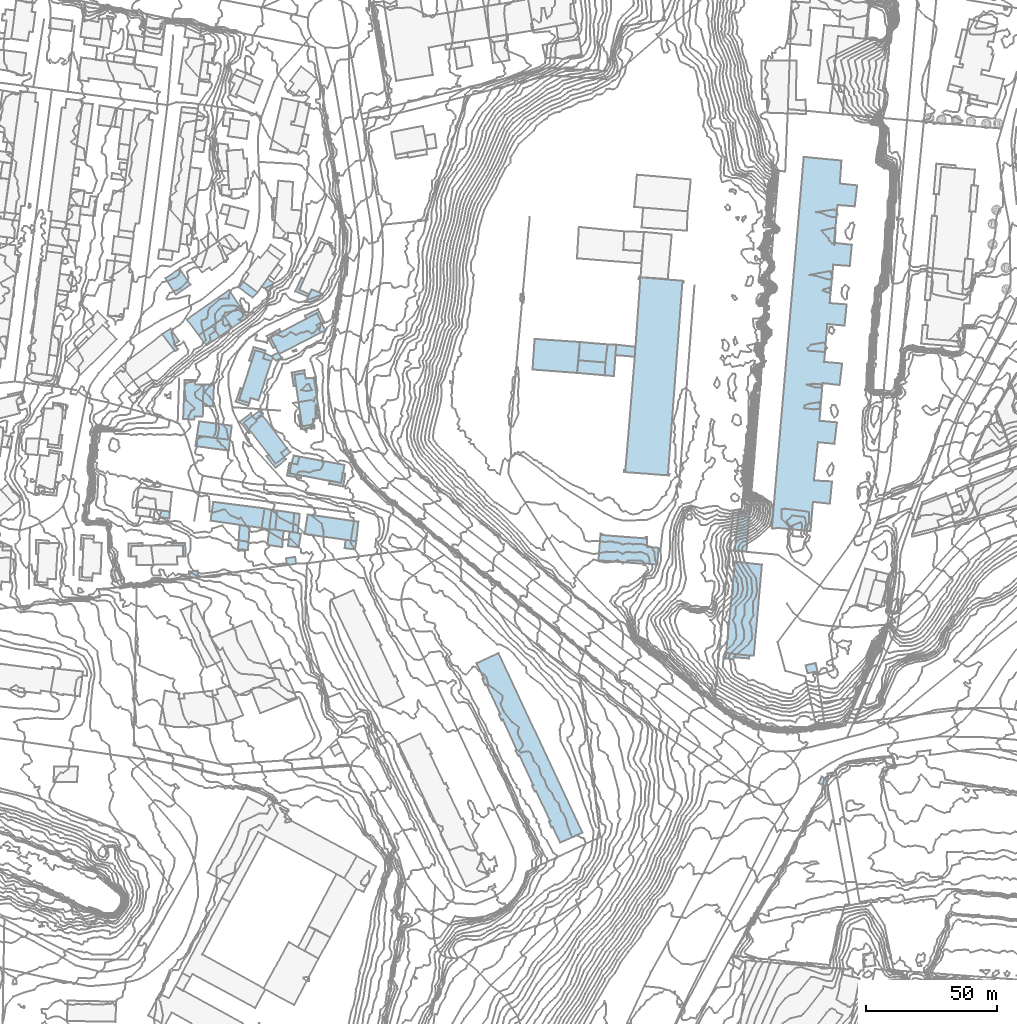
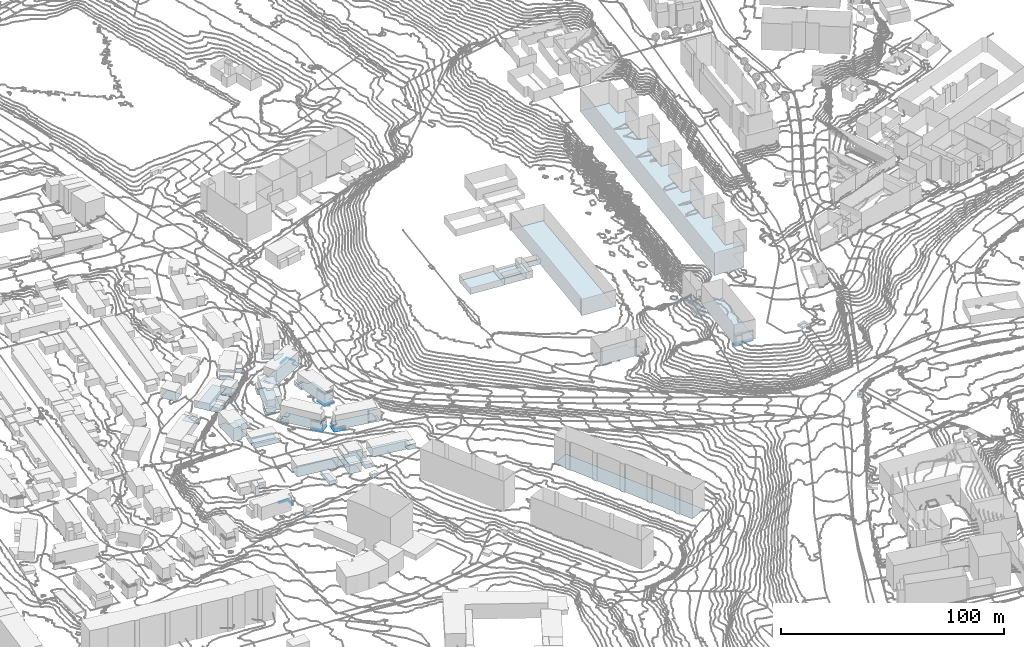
# Not in any storey, part 12 of 419: 63 footings.
"""IFC2X3 model written with IfcOpenShell, lengths in metres."""

from ifc_helpers import new_model, si_unit, frame, origin_with_axes, place, context, subcontext, project, faceted_brep, element, save


model = new_model("IFC2X3")

# Units and contexts
model_context = context("Model", 3, precision=1e-05, world=origin_with_axes())
body_context = subcontext(model_context, "Body", "Model", "MODEL_VIEW")
ifc_project = project(units=[si_unit("AREAUNIT", "SQUARE_METRE"), si_unit("LENGTHUNIT", "METRE")], contexts=[model_context])

# Footings
footing_1_placement = place(None, frame((585.6920204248, 669.3976909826, 49.8970001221), z_axis=(0.0, 0.0, 1.0), x_axis=(1.0, 0.0, 0.0)))
element("IfcFooting", 1, at=footing_1_placement, Name="Sol 0", PredefinedType="STRIP_FOOTING", context=body_context, shape_type="Brep", body=[
    faceted_brep([(0.6, 4.0, 0.0), (13.2000000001, 2.4000000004, 0.0), (12.8, -1.7000000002, 0.0), (0.0, 0.0, 0.0)], [[[0, 1, 2]], [[2, 3, 0]]]),
])
footing_2_placement = place(None, frame((591.4920204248, 640.8976909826, 49.4289993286), z_axis=(0.0, 0.0, 1.0), x_axis=(1.0, 0.0, 0.0)))
element("IfcFooting", 2, at=footing_2_placement, Name="Sol 0", PredefinedType="STRIP_FOOTING", context=body_context, shape_type="Brep", body=[
    faceted_brep([(1.0, 7.2000000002, 0.0), (20.6, 4.7000000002, 0.0), (19.5, -2.7999999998, 0.0), (0.0, 0.0, 0.0)], [[[0, 1, 2]], [[2, 3, 0]]]),
])
footing_3_placement = place(None, frame((613.8920204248, 637.4976909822, 50.0967005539), z_axis=(0.0, 0.0, 1.0), x_axis=(1.0, 0.0, 0.0)))
element("IfcFooting", 3, at=footing_3_placement, Name="Sol 0", PredefinedType="STRIP_FOOTING", context=body_context, shape_type="Brep", body=[
    faceted_brep([(0.8999999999, 7.5, 0.0), (3.1, 7.3000000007, 0.0), (2.2999999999, 0.0, 0.0), (0.0, 0.0, 0.0)], [[[0, 1, 2]], [[2, 3, 0]]]),
])
footing_4_placement = place(None, frame((614.4920204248, 710.9976909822, 51.7713991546), z_axis=(0.0, 0.0, 1.0), x_axis=(1.0, 0.0, 0.0)))
element("IfcFooting", 4, at=footing_4_placement, Name="Sol 0", PredefinedType="STRIP_FOOTING", context=body_context, shape_type="Brep", body=[
    faceted_brep([(17.5, 4.8000000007, 0.0), (19.1, 1.8000000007, 0.0), (3.2, -6.2999999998, 0.0), (17.7, 9.3000000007, 0.0), (19.4, 5.7000000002, 0.0), (0.0, 0.0, 0.0)], [[[0, 1, 2]], [[3, 4, 0]], [[2, 5, 3]], [[3, 0, 2]]]),
])
footing_5_placement = place(None, frame((739.7920204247, 625.3976909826, 67.8319976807), z_axis=(0.0, 0.0, 1.0), x_axis=(1.0, 0.0, 0.0)))
element("IfcFooting", 5, at=footing_5_placement, Name="Sol 0", PredefinedType="STRIP_FOOTING", context=body_context, shape_type="Brep", body=[
    faceted_brep([(18.1000000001, 9.2000000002, 0.0), (18.6000000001, 9.2000000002, 0.0), (18.6000000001, 8.4000000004, 0.0), (0.8, 10.5, 0.0), (1.4, 10.4000000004, 0.0), (1.4, 10.0, 0.0), (0.7000000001, 0.2999999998, 0.0), (0.7000000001, -0.0999999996, 0.0), (0.0, 0.0, 0.0), (17.8, -1.5, 0.0), (17.2000000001, -1.5, 0.0), (17.2000000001, -1.0, 0.0), (23.0, 5.0999999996, 0.0), (22.5, -1.2999999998, 0.0), (18.0, -0.9000000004, 0.0), (18.6000000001, 5.5, 0.0), (18.1000000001, 8.7000000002, 0.0)], [[[0, 1, 2]], [[3, 4, 5]], [[6, 7, 8]], [[9, 10, 11]], [[12, 13, 14]], [[0, 2, 15]], [[8, 3, 5]], [[14, 9, 11]], [[15, 12, 14]], [[16, 0, 15]], [[8, 5, 16]], [[14, 11, 6]], [[16, 15, 14]], [[6, 8, 16]], [[16, 14, 6]]]),
])
footing_6_placement = place(None, frame((602.3920204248, 687.0976909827, 52.1847999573), z_axis=(0.0, 0.0, 1.0), x_axis=(1.0, 0.0, 0.0)))
element("IfcFooting", 6, at=footing_6_placement, Name="Sol 0", PredefinedType="STRIP_FOOTING", context=body_context, shape_type="Brep", body=[
    faceted_brep([(9.2, 15.7999999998, 0.0), (12.2999999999, 14.7999999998, 0.0), (7.3999999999, -0.2000000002, 0.0), (6.1, 18.8999999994, 0.0), (9.7999999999, 17.8999999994, 0.0), (3.8999999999, -1.2000000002, 0.0), (0.0, 0.0, 0.0), (4.3999999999, 0.7000000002, 0.0)], [[[0, 1, 2]], [[3, 4, 0]], [[5, 6, 3]], [[0, 2, 7]], [[7, 5, 3]], [[3, 0, 7]]]),
])
footing_7_placement = place(None, frame((574.1920204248, 733.5976909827, 42.8875996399), z_axis=(0.0, 0.0, 1.0), x_axis=(1.0, 0.0, 0.0)))
element("IfcFooting", 7, at=footing_7_placement, Name="Sol 0", PredefinedType="STRIP_FOOTING", context=body_context, shape_type="Brep", body=[
    faceted_brep([(4.0, -6.2999999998, 0.0), (0.0, 0.0, 0.0), (5.5, 3.7000000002, 0.0), (9.6, -2.4000000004, 0.0)], [[[0, 1, 2]], [[2, 3, 0]]]),
])
footing_8_placement = place(None, frame((571.8920204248, 642.2976909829, 48.9172991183), z_axis=(0.0, 0.0, 1.0), x_axis=(1.0, 0.0, 0.0)))
element("IfcFooting", 8, at=footing_8_placement, Name="Sol 0", PredefinedType="STRIP_FOOTING", context=body_context, shape_type="Brep", body=[
    faceted_brep([(0.8999999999, 2.3999999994, 0.0), (4.0, 2.0999999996, 0.0), (3.7999999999, -0.6000000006, 0.0), (0.0, 0.0, 0.0)], [[[0, 1, 2]], [[2, 3, 0]]]),
])
footing_9_placement = place(None, frame((742.1920204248, 696.4976909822, 71.3740007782), z_axis=(0.0, 0.0, 1.0), x_axis=(1.0, 0.0, 0.0)))
element("IfcFooting", 9, at=footing_9_placement, Name="Sol 0", PredefinedType="STRIP_FOOTING", context=body_context, shape_type="Brep", body=[
    faceted_brep([(0.0, 0.0, 0.0), (0.3, 4.9000000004, 0.0), (1.1, 11.8000000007, 0.0), (4.4, 11.7000000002, 0.0), (3.5, -0.2999999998, 0.0)], [[[0, 1, 2]], [[3, 4, 0]], [[0, 2, 3]]]),
])
footing_10_placement = place(None, frame((583.1920204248, 621.3976909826, 44.3322001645), z_axis=(0.0, 0.0, 1.0), x_axis=(1.0, 0.0, 0.0)))
element("IfcFooting", 10, at=footing_10_placement, Name="Sol 0", PredefinedType="STRIP_FOOTING", context=body_context, shape_type="Brep", body=[
    faceted_brep([(3.4, 0.4000000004, 0.0), (3.7000000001, -2.0999999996, 0.0), (0.3, -2.4000000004, 0.0), (0.0, 0.0, 0.0)], [[[0, 1, 2]], [[2, 3, 0]]]),
])
footing_11_placement = place(None, frame((620.3920204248, 626.4976909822, 48.8734996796), z_axis=(0.0, 0.0, 1.0), x_axis=(1.0, 0.0, 0.0)))
element("IfcFooting", 11, at=footing_11_placement, Name="Sol 0", PredefinedType="STRIP_FOOTING", context=body_context, shape_type="Brep", body=[
    faceted_brep([(3.3999999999, 0.6000000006, 0.0), (3.7999999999, -2.0, 0.0), (0.2999999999, -2.5999999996, 0.0), (0.0, 0.0, 0.0)], [[[0, 1, 2]], [[2, 3, 0]]]),
])
footing_12_placement = place(None, frame((623.7920204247, 728.5976909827, 49.1729995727), z_axis=(0.0, 0.0, 1.0), x_axis=(1.0, 0.0, 0.0)))
element("IfcFooting", 12, at=footing_12_placement, Name="Sol 0", PredefinedType="STRIP_FOOTING", context=body_context, shape_type="Brep", body=[
    faceted_brep([(5.3, -1.1000000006, 0.0), (4.8, -2.0, 0.0), (0.0, 0.0, 0.0), (2.5, 5.2000000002, 0.0), (3.4, 4.7999999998, 0.0), (1.6000000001, 0.5999999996, 0.0)], [[[0, 1, 2]], [[3, 4, 5]], [[5, 0, 2]], [[2, 3, 5]]]),
])
footing_13_placement = place(None, frame((627.7920204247, 724.5976909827, 49.5610002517), z_axis=(0.0, 0.0, 1.0), x_axis=(1.0, 0.0, 0.0)))
element("IfcFooting", 13, at=footing_13_placement, Name="Sol 0", PredefinedType="STRIP_FOOTING", context=body_context, shape_type="Brep", body=[
    faceted_brep([(2.3, 4.7000000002, 0.0), (5.2000000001, 3.5999999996, 0.0), (6.7000000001, 2.7999999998, 0.0), (1.9, 0.0, 0.0), (0.0, 0.0, 0.0), (4.7000000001, 1.0999999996, 0.0)], [[[0, 1, 2]], [[3, 4, 0]], [[2, 5, 3]], [[3, 0, 2]]]),
])
footing_14_placement = place(None, frame((614.8920204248, 703.8976909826, 52.1322005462), z_axis=(0.0, 0.0, 1.0), x_axis=(1.0, 0.0, 0.0)))
element("IfcFooting", 14, at=footing_14_placement, Name="Sol 0", PredefinedType="STRIP_FOOTING", context=body_context, shape_type="Brep", body=[
    faceted_brep([(0.0, 0.0, 0.0), (2.6, 1.4000000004, 0.0), (2.7999999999, 0.7999999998, 0.0), (3.8999999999, -0.7000000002, 0.0), (1.7, -1.7000000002, 0.0)], [[[0, 1, 2]], [[3, 4, 0]], [[0, 2, 3]]]),
])
footing_15_placement = place(None, frame((622.4920204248, 697.4976909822, 54.8317015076), z_axis=(0.0, 0.0, 1.0), x_axis=(1.0, 0.0, 0.0)))
element("IfcFooting", 15, at=footing_15_placement, Name="Sol 0", PredefinedType="STRIP_FOOTING", context=body_context, shape_type="Brep", body=[
    faceted_brep([(4.9, 1.0, 0.0), (5.0, -0.1999999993, 0.0), (1.1, -0.7999999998, 0.0), (1.7, -5.0999999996, 0.0), (0.7999999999, -5.1999999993, 0.0), (0.0, 0.0, 0.0)], [[[0, 1, 2]], [[3, 4, 5]], [[5, 0, 2]], [[2, 3, 5]]]),
])
footing_16_placement = place(None, frame((576.4920204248, 631.3976909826, 46.0819999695), z_axis=(0.0, 0.0, 1.0), x_axis=(1.0, 0.0, 0.0)))
element("IfcFooting", 16, at=footing_16_placement, Name="Sol 0", PredefinedType="STRIP_FOOTING", context=body_context, shape_type="Brep", body=[
    faceted_brep([(5.4, -4.2000000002, 0.0), (4.4, -4.2000000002, 0.0), (4.4, 0.0, 0.0), (0.0, 0.0, 0.0), (0.0, 0.9000000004, 0.0), (5.2999999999, 1.0, 0.0)], [[[0, 1, 2]], [[3, 4, 5]], [[5, 0, 2]], [[2, 3, 5]]]),
])
footing_17_placement = place(None, frame((618.4920204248, 666.8976909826, 53.4909012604), z_axis=(0.0, 0.0, 1.0), x_axis=(1.0, 0.0, 0.0)))
element("IfcFooting", 17, at=footing_17_placement, Name="Sol 0", PredefinedType="STRIP_FOOTING", context=body_context, shape_type="Brep", body=[
    faceted_brep([(0.0, 0.0, 0.0), (2.2, 1.7999999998, 0.0), (3.5, 0.2999999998, 0.0), (1.2, -1.7000000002, 0.0)], [[[0, 1, 2]], [[2, 3, 0]]]),
])
footing_18_placement = place(None, frame((620.6920204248, 658.0976909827, 53.6420013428), z_axis=(0.0, 0.0, 1.0), x_axis=(1.0, 0.0, 0.0)))
element("IfcFooting", 18, at=footing_18_placement, Name="Sol 0", PredefinedType="STRIP_FOOTING", context=body_context, shape_type="Brep", body=[
    faceted_brep([(0.9, 4.8999999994, 0.0), (1.7000000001, 4.7000000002, 0.0), (1.0, 0.8999999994, 0.0), (5.5, 0.0, 0.0), (5.3, -0.9000000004, 0.0), (0.0, 0.0, 0.0)], [[[0, 1, 2]], [[3, 4, 5]], [[5, 0, 2]], [[2, 3, 5]]]),
])
footing_19_placement = place(None, frame((602.6920204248, 678.8976909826, 52.7784986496), z_axis=(0.0, 0.0, 1.0), x_axis=(1.0, 0.0, 0.0)))
element("IfcFooting", 19, at=footing_19_placement, Name="Sol 0", PredefinedType="STRIP_FOOTING", context=body_context, shape_type="Brep", body=[
    faceted_brep([(4.2000000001, 3.0999999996, 0.0), (4.8, 2.0999999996, 0.0), (1.5, -0.4000000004, 0.0), (4.1, -3.9000000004, 0.0), (3.5, -4.5, 0.0), (0.0, 0.0, 0.0)], [[[0, 1, 2]], [[3, 4, 5]], [[5, 0, 2]], [[2, 3, 5]]]),
])
footing_20_placement = place(None, frame((622.8920204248, 636.4976909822, 50.4553011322), z_axis=(0.0, 0.0, 1.0), x_axis=(1.0, 0.0, 0.0)))
element("IfcFooting", 20, at=footing_20_placement, Name="Sol 0", PredefinedType="STRIP_FOOTING", context=body_context, shape_type="Brep", body=[
    faceted_brep([(0.0, 0.0, 0.0), (0.6, 7.3000000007, 0.0), (2.7, 7.0, 0.0), (1.8999999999, -0.2999999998, 0.0)], [[[0, 1, 2]], [[2, 3, 0]]]),
])
footing_21_placement = place(None, frame((610.9920204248, 638.0976909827, 50.037399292), z_axis=(0.0, 0.0, 1.0), x_axis=(1.0, 0.0, 0.0)))
element("IfcFooting", 21, at=footing_21_placement, Name="Sol 0", PredefinedType="STRIP_FOOTING", context=body_context, shape_type="Brep", body=[
    faceted_brep([(1.1, 7.5, 0.0), (3.7999999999, 6.8999999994, 0.0), (2.9, -0.6000000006, 0.0), (0.0, 0.0, 0.0)], [[[0, 1, 2]], [[2, 3, 0]]]),
])
footing_22_placement = place(None, frame((788.5920204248, 590.2976909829, 83.8571990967), z_axis=(0.0, 0.0, 1.0), x_axis=(1.0, 0.0, 0.0)))
element("IfcFooting", 22, at=footing_22_placement, Name="Sol 0", PredefinedType="STRIP_FOOTING", context=body_context, shape_type="Brep", body=[
    faceted_brep([(10.6, -1.0, 0.0), (9.0, -1.0, 0.0), (0.0, 0.0, 0.0), (3.4, 34.8999999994, 0.0), (13.7, 33.7999999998, 0.0)], [[[0, 1, 2]], [[3, 4, 0]], [[0, 2, 3]]]),
])
footing_23_placement = place(None, frame((588.5920204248, 684.8976909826, 49.6700000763), z_axis=(0.0, 0.0, 1.0), x_axis=(1.0, 0.0, 0.0)))
element("IfcFooting", 23, at=footing_23_placement, Name="Sol 0", PredefinedType="STRIP_FOOTING", context=body_context, shape_type="Brep", body=[
    faceted_brep([(0.0, 0.0, 0.0), (0.2, 8.0999999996, 0.0), (4.2, 7.7999999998, 0.0), (3.8, -0.2999999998, 0.0)], [[[0, 1, 2]], [[2, 3, 0]]]),
])
footing_24_placement = place(None, frame((586.9920204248, 711.8976909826, 44.2959999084), z_axis=(0.0, 0.0, 1.0), x_axis=(1.0, 0.0, 0.0)))
element("IfcFooting", 24, at=footing_24_placement, Name="Sol 0", PredefinedType="STRIP_FOOTING", context=body_context, shape_type="Brep", body=[
    faceted_brep([(2.9, -3.9000000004, 0.0), (0.0, 0.0, 0.0), (5.2, 3.5, 0.0), (8.0, -0.5, 0.0)], [[[0, 1, 2]], [[2, 3, 0]]]),
])
footing_25_placement = place(None, frame((604.1920204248, 678.4976909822, 52.8710006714), z_axis=(0.0, 0.0, 1.0), x_axis=(1.0, 0.0, 0.0)))
element("IfcFooting", 25, at=footing_25_placement, Name="Sol 0", PredefinedType="STRIP_FOOTING", context=body_context, shape_type="Brep", body=[
    faceted_brep([(4.6, 1.0, 0.0), (7.2000000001, 2.7000000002, 0.0), (16.5, -9.7999999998, 0.0), (0.0, 0.0, 0.0), (3.3, 2.5, 0.0), (15.5, -13.2999999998, 0.0), (12.2000000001, -15.6999999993, 0.0), (14.3, -11.5999999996, 0.0)], [[[0, 1, 2]], [[3, 4, 0]], [[5, 6, 3]], [[0, 2, 7]], [[5, 3, 0]], [[0, 7, 5]]]),
])
footing_26_placement = place(None, frame((746.2920204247, 704.1976909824, 71.3820022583), z_axis=(0.0, 0.0, 1.0), x_axis=(1.0, 0.0, 0.0)))
element("IfcFooting", 26, at=footing_26_placement, Name="Sol 0", PredefinedType="STRIP_FOOTING", context=body_context, shape_type="Brep", body=[
    faceted_brep([(7.5, 3.2000000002, 0.0), (7.4, -0.5999999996, 0.0), (0.0, 0.0, 0.0), (0.3, 4.0, 0.0)], [[[0, 1, 2]], [[2, 3, 0]]]),
])
footing_27_placement = place(None, frame((621.0920204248, 631.1976909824, 49.5080005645), z_axis=(0.0, 0.0, 1.0), x_axis=(1.0, 0.0, 0.0)))
element("IfcFooting", 27, at=footing_27_placement, Name="Sol 0", PredefinedType="STRIP_FOOTING", context=body_context, shape_type="Brep", body=[
    faceted_brep([(0.6, 5.5, 0.0), (1.8, 5.2999999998, 0.0), (4.9, 4.7000000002, 0.0), (4.1, -0.5, 0.0), (0.0, 0.0, 0.0)], [[[0, 1, 2]], [[3, 4, 0]], [[0, 2, 3]]]),
])
footing_28_placement = place(None, frame((631.9920204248, 715.7976909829, 51.9300001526), z_axis=(0.0, 0.0, 1.0), x_axis=(1.0, 0.0, 0.0)))
element("IfcFooting", 28, at=footing_28_placement, Name="Sol 0", PredefinedType="STRIP_FOOTING", context=body_context, shape_type="Brep", body=[
    faceted_brep([(3.5, -2.2000000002, 0.0), (1.6, -3.0, 0.0), (0.0, 0.0, 0.0), (1.9, 0.8999999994, 0.0)], [[[0, 1, 2]], [[2, 3, 0]]]),
])
footing_29_placement = place(None, frame((612.8920204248, 711.5976909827, 51.8900004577), z_axis=(0.0, 0.0, 1.0), x_axis=(1.0, 0.0, 0.0)))
element("IfcFooting", 29, at=footing_29_placement, Name="Sol 0", PredefinedType="STRIP_FOOTING", context=body_context, shape_type="Brep", body=[
    faceted_brep([(1.6, -0.6000000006, 0.0), (3.3999999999, -4.0, 0.0), (2.6, -4.6000000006, 0.0), (4.8999999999, 2.5, 0.0), (5.2999999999, 1.5999999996, 0.0), (0.0, 0.0, 0.0)], [[[0, 1, 2]], [[3, 4, 0]], [[0, 2, 5]], [[5, 3, 0]]]),
])
footing_30_placement = place(None, frame((602.2920204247, 729.9976909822, 45.0800004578), z_axis=(0.0, 0.0, 1.0), x_axis=(1.0, 0.0, 0.0)))
element("IfcFooting", 30, at=footing_30_placement, Name="Sol 0", PredefinedType="STRIP_FOOTING", context=body_context, shape_type="Brep", body=[
    faceted_brep([(1.7000000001, 2.3000000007, 0.0), (7.1000000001, -1.7999999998, 0.0), (5.3, -3.7999999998, 0.0), (0.0, 0.0, 0.0)], [[[0, 1, 2]], [[2, 3, 0]]]),
])
footing_31_placement = place(None, frame((610.9920204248, 730.3976909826, 45.3399993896), z_axis=(0.0, 0.0, 1.0), x_axis=(1.0, 0.0, 0.0)))
element("IfcFooting", 31, at=footing_31_placement, Name="Sol 0", PredefinedType="STRIP_FOOTING", context=body_context, shape_type="Brep", body=[
    faceted_brep([(2.6, -1.7000000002, 0.0), (0.0, 0.0, 0.0), (2.2, 3.0, 0.0), (4.7999999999, 1.2999999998, 0.0)], [[[0, 1, 2]], [[2, 3, 0]]]),
])
footing_32_placement = place(None, frame((607.4920204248, 680.9976909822, 52.9106004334), z_axis=(0.0, 0.0, 1.0), x_axis=(1.0, 0.0, 0.0)))
element("IfcFooting", 32, at=footing_32_placement, Name="Sol 0", PredefinedType="STRIP_FOOTING", context=body_context, shape_type="Brep", body=[
    faceted_brep([(2.6, 2.0, 0.0), (3.9, 0.2000000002, 0.0), (1.2999999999, -1.5, 0.0), (0.0, 0.0, 0.0)], [[[0, 1, 2]], [[2, 3, 0]]]),
])
footing_33_placement = place(None, frame((642.7920204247, 630.3976909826, 52.6359992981), z_axis=(0.0, 0.0, 1.0), x_axis=(1.0, 0.0, 0.0)))
element("IfcFooting", 33, at=footing_33_placement, Name="Sol 0", PredefinedType="STRIP_FOOTING", context=body_context, shape_type="Brep", body=[
    faceted_brep([(0.0, 0.0, 0.0), (0.3, 3.2000000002, 0.0), (4.4, 2.5999999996, 0.0), (3.9, -0.5, 0.0)], [[[0, 1, 2]], [[2, 3, 0]]]),
])
footing_34_placement = place(None, frame((611.5920204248, 702.8976909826, 52.1847999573), z_axis=(0.0, 0.0, 1.0), x_axis=(1.0, 0.0, 0.0)))
element("IfcFooting", 34, at=footing_34_placement, Name="Sol 0", PredefinedType="STRIP_FOOTING", context=body_context, shape_type="Brep", body=[
    faceted_brep([(0.0, 0.0, 0.0), (0.6, 2.0999999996, 0.0), (3.8, 0.4000000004, 0.0), (3.1, -1.0, 0.0)], [[[0, 1, 2]], [[2, 3, 0]]]),
])
footing_35_placement = place(None, frame((612.8920204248, 665.5976909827, 53.2759997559), z_axis=(0.0, 0.0, 1.0), x_axis=(1.0, 0.0, 0.0)))
element("IfcFooting", 35, at=footing_35_placement, Name="Sol 0", PredefinedType="STRIP_FOOTING", context=body_context, shape_type="Brep", body=[
    faceted_brep([(3.5, -2.7999999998, 0.0), (6.7999999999, -0.4000000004, 0.0), (7.5, -1.2000000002, 0.0), (0.0, 0.0, 0.0), (0.8999999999, 0.5999999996, 0.0), (3.3999999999, -4.4000000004, 0.0)], [[[0, 1, 2]], [[3, 4, 0]], [[0, 2, 5]], [[5, 3, 0]]]),
])
footing_36_placement = place(None, frame((627.5920204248, 719.2976909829, 51.6060012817), z_axis=(0.0, 0.0, 1.0), x_axis=(1.0, 0.0, 0.0)))
element("IfcFooting", 36, at=footing_36_placement, Name="Sol 0", PredefinedType="STRIP_FOOTING", context=body_context, shape_type="Brep", body=[
    faceted_brep([(7.2, -2.2000000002, 0.0), (6.3, -2.6000000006, 0.0), (4.6, 1.0, 0.0), (0.4, -1.2000000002, 0.0), (0.0, 0.0, 0.0), (5.0, 2.5, 0.0)], [[[0, 1, 2]], [[3, 4, 5]], [[5, 0, 2]], [[2, 3, 5]]]),
])
footing_37_placement = place(None, frame((636.7920204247, 654.9976909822, 54.5095999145), z_axis=(0.0, 0.0, 1.0), x_axis=(1.0, 0.0, 0.0)))
element("IfcFooting", 37, at=footing_37_placement, Name="Sol 0", PredefinedType="STRIP_FOOTING", context=body_context, shape_type="Brep", body=[
    faceted_brep([(4.6000000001, 0.3000000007, 0.0), (5.2000000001, 4.1000000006, 0.0), (6.2000000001, 3.9000000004, 0.0), (0.0, 0.0, 0.0), (0.2000000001, 1.2000000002, 0.0), (5.4, -1.0, 0.0)], [[[0, 1, 2]], [[3, 4, 0]], [[0, 2, 5]], [[5, 3, 0]]]),
])
footing_38_placement = place(None, frame((624.9920204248, 681.1976909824, 54.9600000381), z_axis=(0.0, 0.0, 1.0), x_axis=(1.0, 0.0, 0.0)))
element("IfcFooting", 38, at=footing_38_placement, Name="Sol 0", PredefinedType="STRIP_FOOTING", context=body_context, shape_type="Brep", body=[
    faceted_brep([(1.5, -4.2000000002, 0.0), (5.7999999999, -3.5, 0.0), (5.9, -4.3999999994, 0.0), (0.0, 0.0, 0.0), (0.9, 0.2000000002, 0.0), (1.1, -5.2999999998, 0.0)], [[[0, 1, 2]], [[3, 4, 0]], [[0, 2, 5]], [[5, 3, 0]]]),
])
footing_39_placement = place(None, frame((596.8920204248, 718.8976909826, 45.3800012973), z_axis=(0.0, 0.0, 1.0), x_axis=(1.0, 0.0, 0.0)))
element("IfcFooting", 39, at=footing_39_placement, Name="Sol 0", PredefinedType="STRIP_FOOTING", context=body_context, shape_type="Brep", body=[
    faceted_brep([(0.0, 0.0, 0.0), (5.7999999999, 4.0999999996, 0.0), (8.7, -0.2999999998, 0.0), (2.8999999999, -4.2000000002, 0.0)], [[[0, 1, 2]], [[2, 3, 0]]]),
])
footing_40_placement = place(None, frame((592.1920204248, 715.3976909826, 45.7799995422), z_axis=(0.0, 0.0, 1.0), x_axis=(1.0, 0.0, 0.0)))
element("IfcFooting", 40, at=footing_40_placement, Name="Sol 0", PredefinedType="STRIP_FOOTING", context=body_context, shape_type="Brep", body=[
    faceted_brep([(7.6, -0.7000000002, 0.0), (2.8, -4.0, 0.0), (0.0, 0.0, 0.0), (4.7000000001, 3.5, 0.0)], [[[0, 1, 2]], [[2, 3, 0]]]),
])
footing_41_placement = place(None, frame((601.9920204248, 629.8976909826, 48.0050003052), z_axis=(0.0, 0.0, 1.0), x_axis=(1.0, 0.0, 0.0)))
element("IfcFooting", 41, at=footing_41_placement, Name="Sol 0", PredefinedType="STRIP_FOOTING", context=body_context, shape_type="Brep", body=[
    faceted_brep([(0.0, 0.0, 0.0), (0.6, 9.2999999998, 0.0), (4.4, 8.7000000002, 0.0), (3.7999999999, -0.2000000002, 0.0)], [[[0, 1, 2]], [[2, 3, 0]]]),
])
footing_42_placement = place(None, frame((806.0920204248, 637.8976909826, 86.408400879), z_axis=(0.0, 0.0, 1.0), x_axis=(1.0, 0.0, 0.0)))
element("IfcFooting", 42, at=footing_42_placement, Name="Sol 0", PredefinedType="STRIP_FOOTING", context=body_context, shape_type="Brep", body=[
    faceted_brep([(12.2, 142.0999999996, 0.0), (26.6, 140.7000000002, 0.0), (26.0, 131.9000000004, 0.0), (2.5, 0.2000000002, 0.0), (0.0, 0.0, 0.0), (15.7, 10.2000000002, 0.0), (14.8, -1.0, 0.0), (23.0, 18.0, 0.0), (22.2, 9.5, 0.0), (24.9, 40.5999999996, 0.0), (23.9, 32.4000000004, 0.0), (17.6, 33.0, 0.0), (26.9, 63.0999999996, 0.0), (25.9, 54.9000000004, 0.0), (19.4, 55.5999999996, 0.0), (28.6, 85.7000000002, 0.0), (27.8, 77.5999999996, 0.0), (21.2, 78.2000000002, 0.0), (30.6, 108.5, 0.0), (29.8, 100.4000000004, 0.0), (23.5, 100.9000000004, 0.0), (32.6, 131.2000000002, 0.0), (31.7, 123.2000000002, 0.0), (25.1, 123.7000000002, 0.0), (18.2, 41.2000000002, 0.0), (20.0, 63.7000000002, 0.0), (22.1, 86.2000000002, 0.0), (23.8, 109.2000000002, 0.0), (16.1, 18.4000000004, 0.0)], [[[0, 1, 2]], [[3, 4, 0]], [[5, 6, 3]], [[7, 8, 5]], [[9, 10, 11]], [[12, 13, 14]], [[15, 16, 17]], [[18, 19, 20]], [[21, 22, 23]], [[3, 0, 2]], [[7, 5, 3]], [[24, 9, 11]], [[25, 12, 14]], [[26, 15, 17]], [[27, 18, 20]], [[2, 21, 23]], [[28, 7, 3]], [[24, 11, 28]], [[25, 14, 24]], [[20, 26, 17]], [[3, 2, 23]], [[24, 28, 3]], [[27, 20, 17]], [[3, 23, 27]], [[25, 24, 3]], [[3, 27, 17]], [[17, 25, 3]]]),
])
footing_43_placement = place(None, frame((788.3920204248, 588.1976909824, 84.2975994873), z_axis=(0.0, 0.0, 1.0), x_axis=(1.0, 0.0, 0.0)))
element("IfcFooting", 43, at=footing_43_placement, Name="Sol 0", PredefinedType="STRIP_FOOTING", context=body_context, shape_type="Brep", body=[
    faceted_brep([(0.2, 2.1000000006, 0.0), (9.2, 1.1000000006, 0.0), (8.8999999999, 0.0, 0.0), (3.0, -0.2000000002, 0.0), (0.0, 0.0, 0.0), (3.2, 0.5, 0.0)], [[[0, 1, 2]], [[3, 4, 0]], [[0, 2, 5]], [[5, 3, 0]]]),
])
footing_44_placement = place(None, frame((823.9920204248, 540.4976909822, 72.4084002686), z_axis=(0.0, 0.0, 1.0), x_axis=(1.0, 0.0, 0.0)))
element("IfcFooting", 44, at=footing_44_placement, Name="Sol 0", PredefinedType="STRIP_FOOTING", context=body_context, shape_type="Brep", body=[
    faceted_brep([(3.6, 1.2000000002, 0.0), (3.2, 0.3000000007, 0.0), (2.4, -1.0, 0.0), (0.0, 0.0, 0.0), (1.1, 2.5, 0.0)], [[[0, 1, 2]], [[3, 4, 0]], [[0, 2, 3]]]),
])
footing_45_placement = place(None, frame((791.8920204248, 629.5976909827, 73.85), z_axis=(0.0, 0.0, 1.0), x_axis=(1.0, 0.0, 0.0)))
element("IfcFooting", 45, at=footing_45_placement, Name="Sol 0", PredefinedType="STRIP_FOOTING", context=body_context, shape_type="Brep", body=[
    faceted_brep([(4.5, -0.5, 0.0), (0.0, 0.0, 0.0), (1.2999999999, 12.8999999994, 0.0), (1.5, 15.2999999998, 0.0), (5.7, 15.0, 0.0)], [[[0, 1, 2]], [[3, 4, 0]], [[0, 2, 3]]]),
])
footing_46_placement = place(None, frame((749.5920204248, 659.4976909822, 71.1811993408), z_axis=(0.0, 0.0, 1.0), x_axis=(1.0, 0.0, 0.0)))
element("IfcFooting", 46, at=footing_46_placement, Name="Sol 0", PredefinedType="STRIP_FOOTING", context=body_context, shape_type="Brep", body=[
    faceted_brep([(0.0, 0.0, 0.0), (0.0, 0.8000000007, 0.0), (0.5, 0.7000000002, 0.0), (16.8, -0.6999999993, 0.0), (17.3, -0.6999999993, 0.0), (17.2, -1.2999999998, 0.0), (22.8, 73.1000000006, 0.0), (22.8, 72.5, 0.0), (22.3, 72.5, 0.0), (6.2, 73.8000000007, 0.0), (5.6, 73.8000000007, 0.0), (5.7, 74.5, 0.0), (4.1, 44.1000000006, 0.0)], [[[0, 1, 2]], [[3, 4, 5]], [[6, 7, 8]], [[9, 10, 11]], [[5, 0, 2]], [[11, 6, 8]], [[3, 5, 2]], [[9, 11, 8]], [[3, 2, 12]], [[9, 8, 3]], [[3, 12, 9]]]),
])
footing_47_placement = place(None, frame((601.0920204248, 686.3976909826, 52.5969993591), z_axis=(0.0, 0.0, 1.0), x_axis=(1.0, 0.0, 0.0)))
element("IfcFooting", 47, at=footing_47_placement, Name="Sol 0", PredefinedType="STRIP_FOOTING", context=body_context, shape_type="Brep", body=[
    faceted_brep([(1.3, 0.7000000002, 0.0), (5.2, -0.5, 0.0), (4.8, -1.5999999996, 0.0), (1.8, 5.2000000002, 0.0), (2.5, 4.9000000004, 0.0), (0.0, 0.0, 0.0)], [[[0, 1, 2]], [[3, 4, 0]], [[0, 2, 5]], [[5, 3, 0]]]),
])
footing_48_placement = place(None, frame((606.1920204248, 702.0976909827, 52.1450004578), z_axis=(0.0, 0.0, 1.0), x_axis=(1.0, 0.0, 0.0)))
element("IfcFooting", 48, at=footing_48_placement, Name="Sol 0", PredefinedType="STRIP_FOOTING", context=body_context, shape_type="Brep", body=[
    faceted_brep([(6.4, 3.7999999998, 0.0), (6.0, 2.8999999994, 0.0), (2.3, 3.8999999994, 0.0), (1.0, -0.2999999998, 0.0), (0.0, 0.0, 0.0), (1.7000000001, 5.2000000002, 0.0)], [[[0, 1, 2]], [[3, 4, 5]], [[5, 0, 2]], [[2, 3, 5]]]),
])
footing_49_placement = place(None, frame((613.1920204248, 631.5976909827, 48.9920001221), z_axis=(0.0, 0.0, 1.0), x_axis=(1.0, 0.0, 0.0)))
element("IfcFooting", 49, at=footing_49_placement, Name="Sol 0", PredefinedType="STRIP_FOOTING", context=body_context, shape_type="Brep", body=[
    faceted_brep([(0.7000000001, 5.8999999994, 0.0), (3.0, 5.8999999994, 0.0), (6.2000000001, 5.3999999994, 0.0), (5.7000000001, -0.7999999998, 0.0), (0.0, 0.0, 0.0)], [[[0, 1, 2]], [[3, 4, 0]], [[0, 2, 3]]]),
])
footing_50_placement = place(None, frame((732.1920204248, 702.1976909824, 71.3740007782), z_axis=(0.0, 0.0, 1.0), x_axis=(1.0, 0.0, 0.0)))
element("IfcFooting", 50, at=footing_50_placement, Name="Sol 0", PredefinedType="STRIP_FOOTING", context=body_context, shape_type="Brep", body=[
    faceted_brep([(0.5, 7.0, 0.0), (11.1, 6.1000000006, 0.0), (10.3, -0.7999999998, 0.0), (0.0, 0.0, 0.0)], [[[0, 1, 2]], [[2, 3, 0]]]),
])
footing_51_placement = place(None, frame((621.6920204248, 658.9976909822, 53.6719985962), z_axis=(0.0, 0.0, 1.0), x_axis=(1.0, 0.0, 0.0)))
element("IfcFooting", 51, at=footing_51_placement, Name="Sol 0", PredefinedType="STRIP_FOOTING", context=body_context, shape_type="Brep", body=[
    faceted_brep([(3.0, 3.4000000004, 0.0), (3.7000000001, 6.4000000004, 0.0), (21.0, 3.2000000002, 0.0), (0.0, 0.0, 0.0), (0.7000000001, 3.8000000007, 0.0), (19.7000000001, -3.6999999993, 0.0)], [[[0, 1, 2]], [[3, 4, 0]], [[2, 5, 3]], [[3, 0, 2]]]),
])
footing_52_placement = place(None, frame((623.5920204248, 696.6976909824, 54.8609992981), z_axis=(0.0, 0.0, 1.0), x_axis=(1.0, 0.0, 0.0)))
element("IfcFooting", 52, at=footing_52_placement, Name="Sol 0", PredefinedType="STRIP_FOOTING", context=body_context, shape_type="Brep", body=[
    faceted_brep([(7.0, -17.0, 0.0), (7.2, -19.0, 0.0), (2.9, -19.7000000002, 0.0), (7.4, -1.0999999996, 0.0), (9.8, -16.3999999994, 0.0), (0.0, 0.0, 0.0), (3.9, 0.6000000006, 0.0), (4.3, -1.3999999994, 0.0)], [[[0, 1, 2]], [[3, 4, 0]], [[5, 6, 7]], [[0, 2, 5]], [[7, 3, 0]], [[0, 5, 7]]]),
])
footing_53_placement = place(None, frame((714.5920204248, 698.6976909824, 71.333996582), z_axis=(0.0, 0.0, 1.0), x_axis=(1.0, 0.0, 0.0)))
element("IfcFooting", 53, at=footing_53_placement, Name="Sol 0", PredefinedType="STRIP_FOOTING", context=body_context, shape_type="Brep", body=[
    faceted_brep([(18.1, 10.5, 0.0), (17.0, -1.2999999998, 0.0), (0.0, 0.0, 0.0), (0.8, 11.7000000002, 0.0)], [[[0, 1, 2]], [[2, 3, 0]]]),
])
footing_54_placement = place(None, frame((731.5920204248, 697.3976909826, 71.4400024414), z_axis=(0.0, 0.0, 1.0), x_axis=(1.0, 0.0, 0.0)))
element("IfcFooting", 54, at=footing_54_placement, Name="Sol 0", PredefinedType="STRIP_FOOTING", context=body_context, shape_type="Brep", body=[
    faceted_brep([(10.9, 4.0, 0.0), (10.6, -0.9000000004, 0.0), (0.0, 0.0, 0.0), (0.6, 4.7999999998, 0.0)], [[[0, 1, 2]], [[2, 3, 0]]]),
])
footing_55_placement = place(None, frame((616.1920204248, 637.4976909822, 50.271000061), z_axis=(0.0, 0.0, 1.0), x_axis=(1.0, 0.0, 0.0)))
element("IfcFooting", 55, at=footing_55_placement, Name="Sol 0", PredefinedType="STRIP_FOOTING", context=body_context, shape_type="Brep", body=[
    faceted_brep([(7.3, 6.3000000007, 0.0), (6.7000000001, -1.0, 0.0), (0.0, 0.0, 0.0), (0.8, 7.3000000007, 0.0)], [[[0, 1, 2]], [[2, 3, 0]]]),
])
footing_56_placement = place(None, frame((627.4920204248, 635.7976909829, 50.9129999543), z_axis=(0.0, 0.0, 1.0), x_axis=(1.0, 0.0, 0.0)))
element("IfcFooting", 56, at=footing_56_placement, Name="Sol 0", PredefinedType="STRIP_FOOTING", context=body_context, shape_type="Brep", body=[
    faceted_brep([(20.5, 4.6999999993, 0.0), (19.7, -2.8000000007, 0.0), (15.6, -2.2000000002, 0.0), (0.0, 0.0, 0.0), (1.1, 7.5, 0.0)], [[[0, 1, 2]], [[3, 4, 0]], [[0, 2, 3]]]),
])
footing_57_placement = place(None, frame((582.3920204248, 717.8976909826, 44.2890007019), z_axis=(0.0, 0.0, 1.0), x_axis=(1.0, 0.0, 0.0)))
element("IfcFooting", 57, at=footing_57_placement, Name="Sol 0", PredefinedType="STRIP_FOOTING", context=body_context, shape_type="Brep", body=[
    faceted_brep([(20.2999999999, 5.0999999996, 0.0), (4.6, -6.0, 0.0), (0.0, 0.0, 0.0), (16.2, 11.2000000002, 0.0)], [[[0, 1, 2]], [[2, 3, 0]]]),
])
footing_58_placement = place(None, frame((586.2920204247, 673.3976909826, 49.1324996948), z_axis=(0.0, 0.0, 1.0), x_axis=(1.0, 0.0, 0.0)))
element("IfcFooting", 58, at=footing_58_placement, Name="Sol 0", PredefinedType="STRIP_FOOTING", context=body_context, shape_type="Brep", body=[
    faceted_brep([(13.3, 3.7999999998, 0.0), (12.6000000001, -1.5999999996, 0.0), (0.0, 0.0, 0.0), (0.8, 5.5, 0.0)], [[[0, 1, 2]], [[2, 3, 0]]]),
])
footing_59_placement = place(None, frame((572.9920204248, 712.1976909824, 43.6959999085), z_axis=(0.0, 0.0, 1.0), x_axis=(1.0, 0.0, 0.0)))
element("IfcFooting", 59, at=footing_59_placement, Name="Sol 0", PredefinedType="STRIP_FOOTING", context=body_context, shape_type="Brep", body=[
    faceted_brep([(5.0, -6.5, 0.0), (0.0, 0.0, 0.0), (3.2, 2.2000000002, 0.0), (4.5, -3.7999999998, 0.0), (6.0, -5.7000000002, 0.0), (6.4, -2.5999999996, 0.0)], [[[0, 1, 2]], [[3, 4, 0]], [[2, 5, 3]], [[3, 0, 2]]]),
])
footing_60_placement = place(None, frame((580.9920204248, 679.7976909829, 48.8708000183), z_axis=(0.0, 0.0, 1.0), x_axis=(1.0, 0.0, 0.0)))
element("IfcFooting", 60, at=footing_60_placement, Name="Sol 0", PredefinedType="STRIP_FOOTING", context=body_context, shape_type="Brep", body=[
    faceted_brep([(4.7, 13.1999999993, 0.0), (7.7999999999, 13.1999999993, 0.0), (7.5, 1.0, 0.0), (0.6, 14.8999999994, 0.0), (4.5, 14.7999999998, 0.0), (4.2, -0.3000000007, 0.0), (0.0, 0.0, 0.0), (4.4, 1.0, 0.0)], [[[0, 1, 2]], [[3, 4, 0]], [[5, 6, 3]], [[0, 2, 7]], [[5, 3, 0]], [[0, 7, 5]]]),
])
footing_61_placement = place(None, frame((693.1920204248, 586.3976909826, 54.3043986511), z_axis=(0.0, 0.0, 1.0), x_axis=(1.0, 0.0, 0.0)))
element("IfcFooting", 61, at=footing_61_placement, Name="Sol 0", PredefinedType="STRIP_FOOTING", context=body_context, shape_type="Brep", body=[
    faceted_brep([(40.5, -64.7000000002, 0.0), (32.0, -68.5999999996, 0.0), (29.2000000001, -62.5999999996, 0.0), (0.0, 0.0, 0.0), (8.4, 3.9000000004, 0.0), (3.3, -8.2999999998, 0.0), (2.3, -6.0999999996, 0.0), (2.8, -5.9000000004, 0.0), (9.6, -21.9000000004, 0.0), (8.6, -19.7000000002, 0.0), (9.1, -19.4000000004, 0.0), (16.0, -35.5, 0.0), (14.9, -33.2999999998, 0.0), (15.4, -33.0999999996, 0.0), (22.3, -49.0, 0.0), (21.2000000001, -46.7999999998, 0.0), (21.7000000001, -46.5999999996, 0.0), (28.7000000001, -62.7999999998, 0.0), (27.7000000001, -60.5999999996, 0.0), (28.2000000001, -60.4000000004, 0.0), (3.8, -8.0999999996, 0.0), (10.1, -21.5999999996, 0.0), (16.5, -35.2999999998, 0.0), (22.8, -48.7999999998, 0.0)], [[[0, 1, 2]], [[3, 4, 0]], [[5, 6, 7]], [[8, 9, 10]], [[11, 12, 13]], [[14, 15, 16]], [[17, 18, 19]], [[7, 3, 0]], [[20, 5, 7]], [[21, 8, 10]], [[22, 11, 13]], [[23, 14, 16]], [[2, 17, 19]], [[20, 7, 0]], [[13, 21, 10]], [[23, 16, 22]], [[0, 2, 19]], [[10, 20, 0]], [[22, 13, 10]], [[0, 19, 23]], [[22, 10, 0]], [[0, 23, 22]]]),
])
footing_62_placement = place(None, frame((622.3920204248, 662.7976909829, 53.6707987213), z_axis=(0.0, 0.0, 1.0), x_axis=(1.0, 0.0, 0.0)))
element("IfcFooting", 62, at=footing_62_placement, Name="Sol 0", PredefinedType="STRIP_FOOTING", context=body_context, shape_type="Brep", body=[
    faceted_brep([(0.8999999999, 3.0, 0.0), (3.0, 2.5999999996, 0.0), (2.2999999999, -0.4000000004, 0.0), (0.0, 0.0, 0.0)], [[[0, 1, 2]], [[2, 3, 0]]]),
])
footing_63_placement = place(None, frame((818.9920204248, 585.5976909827, 85.9899993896), z_axis=(0.0, 0.0, 1.0), x_axis=(1.0, 0.0, 0.0)))
element("IfcFooting", 63, at=footing_63_placement, Name="Sol 0", PredefinedType="STRIP_FOOTING", context=body_context, shape_type="Brep", body=[
    faceted_brep([(3.9, 0.8999999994, 0.0), (4.6, -2.4000000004, 0.0), (3.2, -2.6000000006, 0.0), (0.7999999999, -3.0, 0.0), (0.0, 0.0, 0.0)], [[[0, 1, 2]], [[3, 4, 0]], [[0, 2, 3]]]),
])

save(model, "model.ifc")
